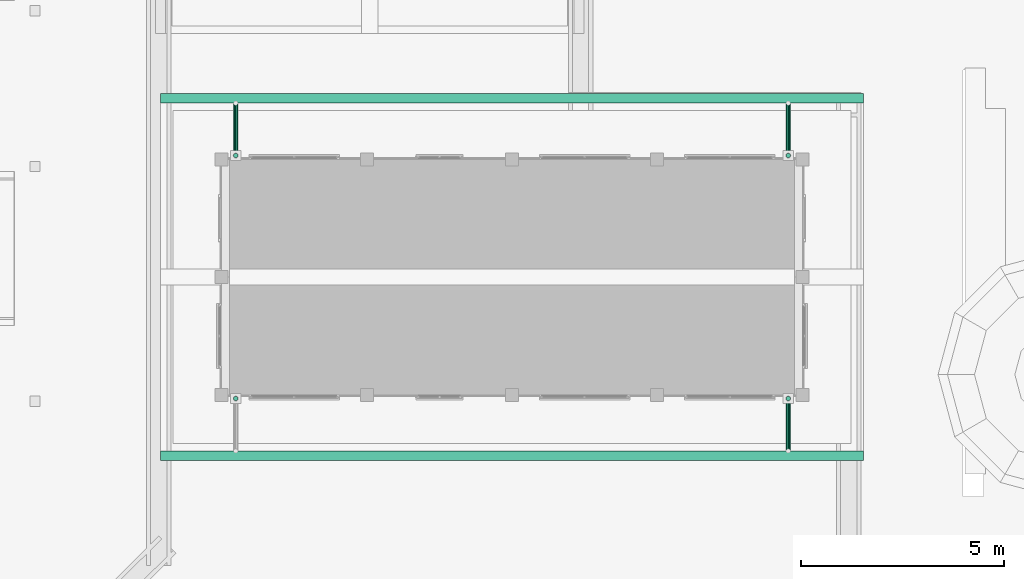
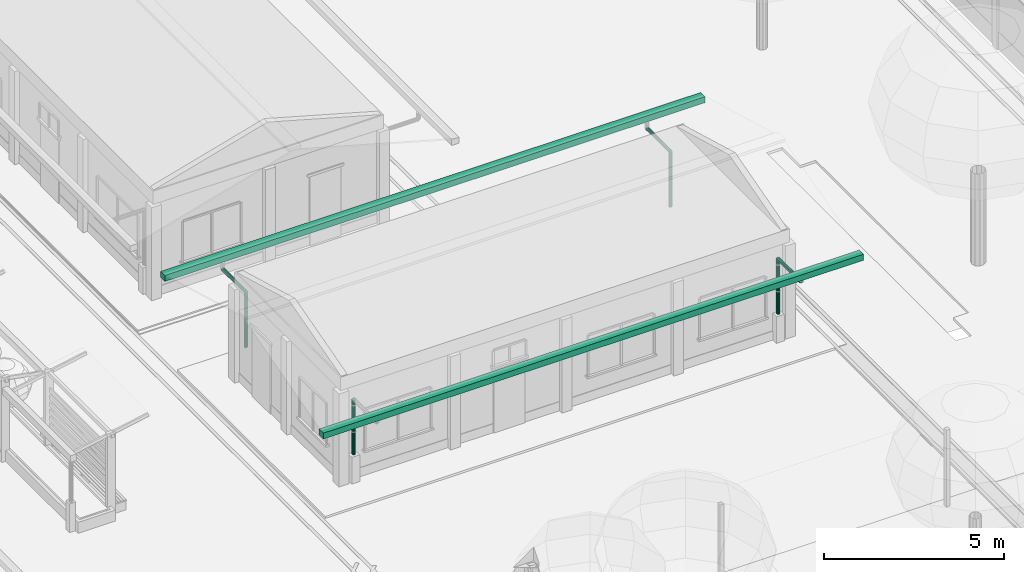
# One storey, part 99 of 177: 9 pipe segments.
"""IFC4 building model written with IfcOpenShell, lengths in metres."""

from ifc_helpers import new_model, si_unit, origin, origin_with_axes, place, context, subcontext, project, spatial, triangles, element, save


model = new_model("IFC4")

# Units and contexts
model_context = context("Model", 3, precision=1e-05, world=origin_with_axes())
body_context = subcontext(model_context, "Body", "Model", "MODEL_VIEW")
ifc_project = project(units=[si_unit("LENGTHUNIT", "METRE"), si_unit("AREAUNIT", "SQUARE_METRE"), si_unit("VOLUMEUNIT", "CUBIC_METRE"), si_unit("PLANEANGLEUNIT", "RADIAN")], contexts=[model_context])

# Site, building, storey
site_placement = place(None, origin_with_axes())
site = spatial("IfcSite", under=ifc_project, at=site_placement, Name="Predio Los Mangos - Morales, San Martín", CompositionType="ELEMENT")
building_placement = place(site_placement, origin())
building = spatial("IfcBuilding", under=site, at=building_placement, Name="Hogar de Refugio Temporal", CompositionType="ELEMENT")
storey_placement = place(building_placement, origin())
storey = spatial("IfcBuildingStorey", under=building, at=storey_placement, Name="NIVEL 1 (NPT +0.00)", CompositionType="ELEMENT", Elevation=0.0)

# Pipe segments
pipe_segment_1_placement = place(storey_placement, origin())
element("IfcPipeSegment", 1, at=pipe_segment_1_placement, inside=storey, Name="E-03_canaleta", ObjectType="Canaleta", PredefinedType="GUTTER", context=body_context, shape_type="Tessellation", body=[
    triangles([(43.8, 30.88, 3.13), (61.1, 30.88, 3.13), (61.1, 31.12, 3.13), (43.8, 31.12, 3.13), (43.8, 30.88, 3.33), (61.1, 30.88, 3.33), (61.1, 31.12, 3.33), (43.8, 31.12, 3.33)], [[1, 4, 3], [1, 3, 2], [5, 6, 7], [5, 7, 8], [1, 2, 6], [1, 6, 5], [2, 3, 7], [2, 7, 6], [3, 4, 8], [3, 8, 7], [4, 1, 5], [4, 5, 8]]),
])
pipe_segment_2_placement = place(storey_placement, origin())
element("IfcPipeSegment", 2, at=pipe_segment_2_placement, inside=storey, Name="E-03_canaleta", ObjectType="Canaleta", PredefinedType="GUTTER", context=body_context, shape_type="Tessellation", body=[
    triangles([(43.8, 39.68, 3.13), (61.1, 39.68, 3.13), (61.1, 39.92, 3.13), (43.8, 39.92, 3.13), (43.8, 39.68, 3.33), (61.1, 39.68, 3.33), (61.1, 39.92, 3.33), (43.8, 39.92, 3.33)], [[1, 4, 3], [1, 3, 2], [5, 6, 7], [5, 7, 8], [1, 2, 6], [1, 6, 5], [2, 3, 7], [2, 7, 6], [3, 4, 8], [3, 8, 7], [4, 1, 5], [4, 5, 8]]),
])
pipe_segment_3_placement = place(storey_placement, origin())
element("IfcPipeSegment", 3, at=pipe_segment_3_placement, inside=storey, Name="montante_bajada", ObjectType="Montante PVC 4\"", PredefinedType="RIGIDSEGMENT", context=body_context, shape_type="Tessellation", body=[
    triangles([(45.65, 32.465, 2.91), (45.65, 32.465, 1.05), (45.6225, 32.4576, 2.91), (45.6225, 32.4576, 1.05), (45.6024, 32.4375, 2.91), (45.6024, 32.4375, 1.05), (45.595, 32.41, 2.91), (45.595, 32.41, 1.05), (45.6024, 32.3825, 2.91), (45.6024, 32.3825, 1.05), (45.6225, 32.3624, 2.91), (45.6225, 32.3624, 1.05), (45.65, 32.355, 2.91), (45.65, 32.355, 1.05), (45.6775, 32.3624, 2.91), (45.6775, 32.3624, 1.05), (45.6976, 32.3825, 2.91), (45.6976, 32.3825, 1.05), (45.705, 32.41, 2.91), (45.705, 32.41, 1.05), (45.6976, 32.4375, 2.91), (45.6976, 32.4375, 1.05), (45.6775, 32.4576, 2.91), (45.6775, 32.4576, 1.05)], [[1, 2, 4], [1, 4, 3], [3, 4, 6], [3, 6, 5], [5, 6, 8], [5, 8, 7], [7, 8, 10], [7, 10, 9], [9, 10, 12], [9, 12, 11], [11, 12, 14], [11, 14, 13], [13, 14, 16], [13, 16, 15], [15, 16, 18], [15, 18, 17], [17, 18, 20], [17, 20, 19], [19, 20, 22], [19, 22, 21], [6, 4, 2], [2, 24, 22], [22, 20, 18], [18, 16, 14], [14, 12, 10], [10, 8, 6], [6, 2, 22], [22, 18, 14], [14, 10, 6], [22, 14, 6], [21, 22, 24], [21, 24, 23], [23, 24, 2], [23, 2, 1], [23, 1, 3], [3, 5, 7], [7, 9, 11], [11, 13, 15], [15, 17, 19], [19, 21, 23], [23, 3, 7], [7, 11, 15], [15, 19, 23], [7, 15, 23]]),
])
pipe_segment_4_placement = place(storey_placement, origin())
element("IfcPipeSegment", 4, at=pipe_segment_4_placement, inside=storey, Name="montante_desvio", ObjectType="Montante PVC 4\"", PredefinedType="RIGIDSEGMENT", context=body_context, shape_type="Tessellation", body=[
    triangles([(59.25, 31.12, 2.965), (59.25, 32.41, 2.965), (59.2225, 31.12, 2.9576), (59.2225, 32.41, 2.9576), (59.2024, 31.12, 2.9375), (59.2024, 32.41, 2.9375), (59.195, 31.12, 2.91), (59.195, 32.41, 2.91), (59.2024, 31.12, 2.8825), (59.2024, 32.41, 2.8825), (59.2225, 31.12, 2.8624), (59.2225, 32.41, 2.8624), (59.25, 31.12, 2.855), (59.25, 32.41, 2.855), (59.2775, 31.12, 2.8624), (59.2775, 32.41, 2.8624), (59.2976, 31.12, 2.8825), (59.2976, 32.41, 2.8825), (59.305, 31.12, 2.91), (59.305, 32.41, 2.91), (59.2976, 31.12, 2.9375), (59.2976, 32.41, 2.9375), (59.2775, 31.12, 2.9576), (59.2775, 32.41, 2.9576)], [[1, 2, 4], [1, 4, 3], [3, 4, 6], [3, 6, 5], [5, 6, 8], [5, 8, 7], [7, 8, 10], [7, 10, 9], [9, 10, 12], [9, 12, 11], [11, 12, 14], [11, 14, 13], [13, 14, 16], [13, 16, 15], [15, 16, 18], [15, 18, 17], [17, 18, 20], [17, 20, 19], [19, 20, 22], [19, 22, 21], [6, 4, 2], [2, 24, 22], [22, 20, 18], [18, 16, 14], [14, 12, 10], [10, 8, 6], [6, 2, 22], [22, 18, 14], [14, 10, 6], [22, 14, 6], [21, 22, 24], [21, 24, 23], [23, 24, 2], [23, 2, 1], [23, 1, 3], [3, 5, 7], [7, 9, 11], [11, 13, 15], [15, 17, 19], [19, 21, 23], [23, 3, 7], [7, 11, 15], [15, 19, 23], [7, 15, 23]]),
])
pipe_segment_5_placement = place(storey_placement, origin())
element("IfcPipeSegment", 5, at=pipe_segment_5_placement, inside=storey, Name="montante_bajada", ObjectType="Montante PVC 4\"", PredefinedType="RIGIDSEGMENT", context=body_context, shape_type="Tessellation", body=[
    triangles([(59.25, 32.465, 2.91), (59.25, 32.465, 1.05), (59.2225, 32.4576, 2.91), (59.2225, 32.4576, 1.05), (59.2024, 32.4375, 2.91), (59.2024, 32.4375, 1.05), (59.195, 32.41, 2.91), (59.195, 32.41, 1.05), (59.2024, 32.3825, 2.91), (59.2024, 32.3825, 1.05), (59.2225, 32.3624, 2.91), (59.2225, 32.3624, 1.05), (59.25, 32.355, 2.91), (59.25, 32.355, 1.05), (59.2775, 32.3624, 2.91), (59.2775, 32.3624, 1.05), (59.2976, 32.3825, 2.91), (59.2976, 32.3825, 1.05), (59.305, 32.41, 2.91), (59.305, 32.41, 1.05), (59.2976, 32.4375, 2.91), (59.2976, 32.4375, 1.05), (59.2775, 32.4576, 2.91), (59.2775, 32.4576, 1.05)], [[1, 2, 4], [1, 4, 3], [3, 4, 6], [3, 6, 5], [5, 6, 8], [5, 8, 7], [7, 8, 10], [7, 10, 9], [9, 10, 12], [9, 12, 11], [11, 12, 14], [11, 14, 13], [13, 14, 16], [13, 16, 15], [15, 16, 18], [15, 18, 17], [17, 18, 20], [17, 20, 19], [19, 20, 22], [19, 22, 21], [6, 4, 2], [2, 24, 22], [22, 20, 18], [18, 16, 14], [14, 12, 10], [10, 8, 6], [6, 2, 22], [22, 18, 14], [14, 10, 6], [22, 14, 6], [21, 22, 24], [21, 24, 23], [23, 24, 2], [23, 2, 1], [23, 1, 3], [3, 5, 7], [7, 9, 11], [11, 13, 15], [15, 17, 19], [19, 21, 23], [23, 3, 7], [7, 11, 15], [15, 19, 23], [7, 15, 23]]),
])
pipe_segment_6_placement = place(storey_placement, origin())
element("IfcPipeSegment", 6, at=pipe_segment_6_placement, inside=storey, Name="montante_desvio", ObjectType="Montante PVC 4\"", PredefinedType="RIGIDSEGMENT", context=body_context, shape_type="Tessellation", body=[
    triangles([(45.65, 39.68, 2.965), (45.65, 38.39, 2.965), (45.6775, 39.68, 2.9576), (45.6775, 38.39, 2.9576), (45.6976, 39.68, 2.9375), (45.6976, 38.39, 2.9375), (45.705, 39.68, 2.91), (45.705, 38.39, 2.91), (45.6976, 39.68, 2.8825), (45.6976, 38.39, 2.8825), (45.6775, 39.68, 2.8624), (45.6775, 38.39, 2.8624), (45.65, 39.68, 2.855), (45.65, 38.39, 2.855), (45.6225, 39.68, 2.8624), (45.6225, 38.39, 2.8624), (45.6024, 39.68, 2.8825), (45.6024, 38.39, 2.8825), (45.595, 39.68, 2.91), (45.595, 38.39, 2.91), (45.6024, 39.68, 2.9375), (45.6024, 38.39, 2.9375), (45.6225, 39.68, 2.9576), (45.6225, 38.39, 2.9576)], [[1, 2, 4], [1, 4, 3], [3, 4, 6], [3, 6, 5], [5, 6, 8], [5, 8, 7], [7, 8, 10], [7, 10, 9], [9, 10, 12], [9, 12, 11], [11, 12, 14], [11, 14, 13], [13, 14, 16], [13, 16, 15], [15, 16, 18], [15, 18, 17], [17, 18, 20], [17, 20, 19], [19, 20, 22], [19, 22, 21], [6, 4, 2], [2, 24, 22], [22, 20, 18], [18, 16, 14], [14, 12, 10], [10, 8, 6], [6, 2, 22], [22, 18, 14], [14, 10, 6], [22, 14, 6], [21, 22, 24], [21, 24, 23], [23, 24, 2], [23, 2, 1], [23, 1, 3], [3, 5, 7], [7, 9, 11], [11, 13, 15], [15, 17, 19], [19, 21, 23], [23, 3, 7], [7, 11, 15], [15, 19, 23], [7, 15, 23]]),
])
pipe_segment_7_placement = place(storey_placement, origin())
element("IfcPipeSegment", 7, at=pipe_segment_7_placement, inside=storey, Name="montante_bajada", ObjectType="Montante PVC 4\"", PredefinedType="RIGIDSEGMENT", context=body_context, shape_type="Tessellation", body=[
    triangles([(45.65, 38.445, 2.91), (45.65, 38.445, 1.05), (45.6225, 38.4376, 2.91), (45.6225, 38.4376, 1.05), (45.6024, 38.4175, 2.91), (45.6024, 38.4175, 1.05), (45.595, 38.39, 2.91), (45.595, 38.39, 1.05), (45.6024, 38.3625, 2.91), (45.6024, 38.3625, 1.05), (45.6225, 38.3424, 2.91), (45.6225, 38.3424, 1.05), (45.65, 38.335, 2.91), (45.65, 38.335, 1.05), (45.6775, 38.3424, 2.91), (45.6775, 38.3424, 1.05), (45.6976, 38.3625, 2.91), (45.6976, 38.3625, 1.05), (45.705, 38.39, 2.91), (45.705, 38.39, 1.05), (45.6976, 38.4175, 2.91), (45.6976, 38.4175, 1.05), (45.6775, 38.4376, 2.91), (45.6775, 38.4376, 1.05)], [[1, 2, 4], [1, 4, 3], [3, 4, 6], [3, 6, 5], [5, 6, 8], [5, 8, 7], [7, 8, 10], [7, 10, 9], [9, 10, 12], [9, 12, 11], [11, 12, 14], [11, 14, 13], [13, 14, 16], [13, 16, 15], [15, 16, 18], [15, 18, 17], [17, 18, 20], [17, 20, 19], [19, 20, 22], [19, 22, 21], [6, 4, 2], [2, 24, 22], [22, 20, 18], [18, 16, 14], [14, 12, 10], [10, 8, 6], [6, 2, 22], [22, 18, 14], [14, 10, 6], [22, 14, 6], [21, 22, 24], [21, 24, 23], [23, 24, 2], [23, 2, 1], [23, 1, 3], [3, 5, 7], [7, 9, 11], [11, 13, 15], [15, 17, 19], [19, 21, 23], [23, 3, 7], [7, 11, 15], [15, 19, 23], [7, 15, 23]]),
])
pipe_segment_8_placement = place(storey_placement, origin())
element("IfcPipeSegment", 8, at=pipe_segment_8_placement, inside=storey, Name="montante_desvio", ObjectType="Montante PVC 4\"", PredefinedType="RIGIDSEGMENT", context=body_context, shape_type="Tessellation", body=[
    triangles([(59.25, 39.68, 2.965), (59.25, 38.39, 2.965), (59.2775, 39.68, 2.9576), (59.2775, 38.39, 2.9576), (59.2976, 39.68, 2.9375), (59.2976, 38.39, 2.9375), (59.305, 39.68, 2.91), (59.305, 38.39, 2.91), (59.2976, 39.68, 2.8825), (59.2976, 38.39, 2.8825), (59.2775, 39.68, 2.8624), (59.2775, 38.39, 2.8624), (59.25, 39.68, 2.855), (59.25, 38.39, 2.855), (59.2225, 39.68, 2.8624), (59.2225, 38.39, 2.8624), (59.2024, 39.68, 2.8825), (59.2024, 38.39, 2.8825), (59.195, 39.68, 2.91), (59.195, 38.39, 2.91), (59.2024, 39.68, 2.9375), (59.2024, 38.39, 2.9375), (59.2225, 39.68, 2.9576), (59.2225, 38.39, 2.9576)], [[1, 2, 4], [1, 4, 3], [3, 4, 6], [3, 6, 5], [5, 6, 8], [5, 8, 7], [7, 8, 10], [7, 10, 9], [9, 10, 12], [9, 12, 11], [11, 12, 14], [11, 14, 13], [13, 14, 16], [13, 16, 15], [15, 16, 18], [15, 18, 17], [17, 18, 20], [17, 20, 19], [19, 20, 22], [19, 22, 21], [6, 4, 2], [2, 24, 22], [22, 20, 18], [18, 16, 14], [14, 12, 10], [10, 8, 6], [6, 2, 22], [22, 18, 14], [14, 10, 6], [22, 14, 6], [21, 22, 24], [21, 24, 23], [23, 24, 2], [23, 2, 1], [23, 1, 3], [3, 5, 7], [7, 9, 11], [11, 13, 15], [15, 17, 19], [19, 21, 23], [23, 3, 7], [7, 11, 15], [15, 19, 23], [7, 15, 23]]),
])
pipe_segment_9_placement = place(storey_placement, origin())
element("IfcPipeSegment", 9, at=pipe_segment_9_placement, inside=storey, Name="montante_bajada", ObjectType="Montante PVC 4\"", PredefinedType="RIGIDSEGMENT", context=body_context, shape_type="Tessellation", body=[
    triangles([(59.25, 38.445, 2.91), (59.25, 38.445, 1.05), (59.2225, 38.4376, 2.91), (59.2225, 38.4376, 1.05), (59.2024, 38.4175, 2.91), (59.2024, 38.4175, 1.05), (59.195, 38.39, 2.91), (59.195, 38.39, 1.05), (59.2024, 38.3625, 2.91), (59.2024, 38.3625, 1.05), (59.2225, 38.3424, 2.91), (59.2225, 38.3424, 1.05), (59.25, 38.335, 2.91), (59.25, 38.335, 1.05), (59.2775, 38.3424, 2.91), (59.2775, 38.3424, 1.05), (59.2976, 38.3625, 2.91), (59.2976, 38.3625, 1.05), (59.305, 38.39, 2.91), (59.305, 38.39, 1.05), (59.2976, 38.4175, 2.91), (59.2976, 38.4175, 1.05), (59.2775, 38.4376, 2.91), (59.2775, 38.4376, 1.05)], [[1, 2, 4], [1, 4, 3], [3, 4, 6], [3, 6, 5], [5, 6, 8], [5, 8, 7], [7, 8, 10], [7, 10, 9], [9, 10, 12], [9, 12, 11], [11, 12, 14], [11, 14, 13], [13, 14, 16], [13, 16, 15], [15, 16, 18], [15, 18, 17], [17, 18, 20], [17, 20, 19], [19, 20, 22], [19, 22, 21], [6, 4, 2], [2, 24, 22], [22, 20, 18], [18, 16, 14], [14, 12, 10], [10, 8, 6], [6, 2, 22], [22, 18, 14], [14, 10, 6], [22, 14, 6], [21, 22, 24], [21, 24, 23], [23, 24, 2], [23, 2, 1], [23, 1, 3], [3, 5, 7], [7, 9, 11], [11, 13, 15], [15, 17, 19], [19, 21, 23], [23, 3, 7], [7, 11, 15], [15, 19, 23], [7, 15, 23]]),
])

save(model, "model.ifc")
